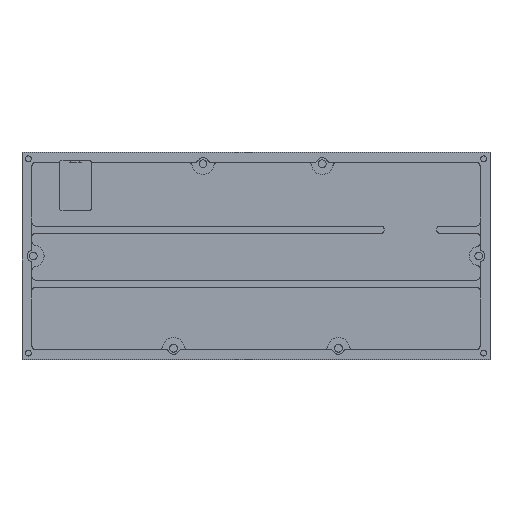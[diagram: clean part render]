
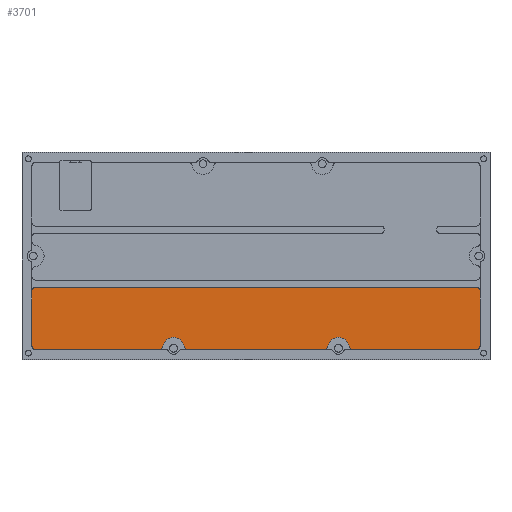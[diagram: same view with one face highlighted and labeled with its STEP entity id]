
A CAD part, top view. The second image highlights one B-rep face of the part: STEP entity #3701.
In plain terms, the highlighted planar face has unit normal (0, 0, 1).
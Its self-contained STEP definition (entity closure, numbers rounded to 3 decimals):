
#424=CARTESIAN_POINT('',(423.5,-109.5,5.5));
#425=VERTEX_POINT('',#424);
#426=CARTESIAN_POINT('',(737.,-109.5,5.5));
#427=VERTEX_POINT('',#426);
#428=CARTESIAN_POINT('',(423.5,-109.5,5.5));
#429=DIRECTION('',(1.,0.,0.));
#430=VECTOR('',#429,313.5);
#431=LINE('',#428,#430);
#432=EDGE_CURVE('',#425,#427,#431,.T.);
#490=CARTESIAN_POINT('',(420.5,-151.,5.5));
#491=VERTEX_POINT('',#490);
#498=CARTESIAN_POINT('',(420.5,-112.5,5.5));
#499=VERTEX_POINT('',#498);
#500=CARTESIAN_POINT('',(420.5,-151.,5.5));
#501=DIRECTION('',(0.,1.,0.));
#502=VECTOR('',#501,38.5);
#503=LINE('',#500,#502);
#504=EDGE_CURVE('',#491,#499,#503,.T.);
#610=CARTESIAN_POINT('',(740.,-112.5,5.5));
#611=VERTEX_POINT('',#610);
#618=CARTESIAN_POINT('',(740.,-151.,5.5));
#619=VERTEX_POINT('',#618);
#620=CARTESIAN_POINT('',(740.,-112.5,5.5));
#621=DIRECTION('',(0.,-1.,0.));
#622=VECTOR('',#621,38.5);
#623=LINE('',#620,#622);
#624=EDGE_CURVE('',#611,#619,#623,.T.);
#666=CARTESIAN_POINT('',(628.438,-154.,5.5));
#667=VERTEX_POINT('',#666);
#674=CARTESIAN_POINT('',(532.062,-154.,5.5));
#675=VERTEX_POINT('',#674);
#676=CARTESIAN_POINT('',(628.438,-154.,5.5));
#677=DIRECTION('',(-1.,-0.,0.));
#678=VECTOR('',#677,96.375);
#679=LINE('',#676,#678);
#680=EDGE_CURVE('',#667,#675,#679,.T.);
#738=CARTESIAN_POINT('',(510.938,-154.,5.5));
#739=VERTEX_POINT('',#738);
#746=CARTESIAN_POINT('',(423.5,-154.,5.5));
#747=VERTEX_POINT('',#746);
#748=CARTESIAN_POINT('',(510.938,-154.,5.5));
#749=DIRECTION('',(-1.,-0.,0.));
#750=VECTOR('',#749,87.438);
#751=LINE('',#748,#750);
#752=EDGE_CURVE('',#739,#747,#751,.T.);
#794=CARTESIAN_POINT('',(737.,-154.,5.5));
#795=VERTEX_POINT('',#794);
#802=CARTESIAN_POINT('',(649.562,-154.,5.5));
#803=VERTEX_POINT('',#802);
#804=CARTESIAN_POINT('',(737.,-154.,5.5));
#805=DIRECTION('',(-1.,-0.,0.));
#806=VECTOR('',#805,87.438);
#807=LINE('',#804,#806);
#808=EDGE_CURVE('',#795,#803,#807,.T.);
#2025=CARTESIAN_POINT('',(646.615,-151.558,5.5));
#2026=VERTEX_POINT('',#2025);
#2027=CARTESIAN_POINT('',(631.385,-151.558,5.5));
#2028=VERTEX_POINT('',#2027);
#2029=CARTESIAN_POINT('',(639.,-153.,5.5));
#2030=DIRECTION('',(0.,0.,1.));
#2031=DIRECTION('',(1.,0.,-0.));
#2032=AXIS2_PLACEMENT_3D('',#2029,#2030,#2031);
#2033=CIRCLE('',#2032,7.75);
#2034=EDGE_CURVE('',#2026,#2028,#2033,.T.);
#2555=CARTESIAN_POINT('',(529.115,-151.558,5.5));
#2556=VERTEX_POINT('',#2555);
#2557=CARTESIAN_POINT('',(513.885,-151.558,5.5));
#2558=VERTEX_POINT('',#2557);
#2559=CARTESIAN_POINT('',(521.5,-153.,5.5));
#2560=DIRECTION('',(0.,0.,1.));
#2561=DIRECTION('',(1.,0.,-0.));
#2562=AXIS2_PLACEMENT_3D('',#2559,#2560,#2561);
#2563=CIRCLE('',#2562,7.75);
#2564=EDGE_CURVE('',#2556,#2558,#2563,.T.);
#3630=CARTESIAN_POINT('',(0.,0.,5.5));
#3631=DIRECTION('',(0.,0.,1.));
#3632=DIRECTION('',(1.,0.,0.));
#3633=AXIS2_PLACEMENT_3D('',#3630,#3631,#3632);
#3634=PLANE('',#3633);
#3635=ORIENTED_EDGE('',*,*,#624,.F.);
#3636=CARTESIAN_POINT('',(737.,-112.5,5.5));
#3637=DIRECTION('',(0.,0.,1.));
#3638=DIRECTION('',(1.,0.,-0.));
#3639=AXIS2_PLACEMENT_3D('',#3636,#3637,#3638);
#3640=CIRCLE('',#3639,3.);
#3641=EDGE_CURVE('',#611,#427,#3640,.T.);
#3642=ORIENTED_EDGE('',*,*,#3641,.T.);
#3643=ORIENTED_EDGE('',*,*,#432,.F.);
#3644=CARTESIAN_POINT('',(423.5,-112.5,5.5));
#3645=DIRECTION('',(0.,0.,1.));
#3646=DIRECTION('',(1.,0.,-0.));
#3647=AXIS2_PLACEMENT_3D('',#3644,#3645,#3646);
#3648=CIRCLE('',#3647,3.);
#3649=EDGE_CURVE('',#425,#499,#3648,.T.);
#3650=ORIENTED_EDGE('',*,*,#3649,.T.);
#3651=ORIENTED_EDGE('',*,*,#504,.F.);
#3652=CARTESIAN_POINT('',(423.5,-151.,5.5));
#3653=DIRECTION('',(0.,0.,1.));
#3654=DIRECTION('',(1.,0.,-0.));
#3655=AXIS2_PLACEMENT_3D('',#3652,#3653,#3654);
#3656=CIRCLE('',#3655,3.);
#3657=EDGE_CURVE('',#491,#747,#3656,.T.);
#3658=ORIENTED_EDGE('',*,*,#3657,.T.);
#3659=ORIENTED_EDGE('',*,*,#752,.F.);
#3660=CARTESIAN_POINT('',(510.938,-151.,5.5));
#3661=DIRECTION('',(0.,0.,1.));
#3662=DIRECTION('',(1.,0.,-0.));
#3663=AXIS2_PLACEMENT_3D('',#3660,#3661,#3662);
#3664=CIRCLE('',#3663,3.);
#3665=EDGE_CURVE('',#739,#2558,#3664,.T.);
#3666=ORIENTED_EDGE('',*,*,#3665,.T.);
#3667=ORIENTED_EDGE('',*,*,#2564,.F.);
#3668=CARTESIAN_POINT('',(532.062,-151.,5.5));
#3669=DIRECTION('',(0.,0.,1.));
#3670=DIRECTION('',(1.,0.,-0.));
#3671=AXIS2_PLACEMENT_3D('',#3668,#3669,#3670);
#3672=CIRCLE('',#3671,3.);
#3673=EDGE_CURVE('',#2556,#675,#3672,.T.);
#3674=ORIENTED_EDGE('',*,*,#3673,.T.);
#3675=ORIENTED_EDGE('',*,*,#680,.F.);
#3676=CARTESIAN_POINT('',(628.438,-151.,5.5));
#3677=DIRECTION('',(0.,0.,1.));
#3678=DIRECTION('',(1.,0.,-0.));
#3679=AXIS2_PLACEMENT_3D('',#3676,#3677,#3678);
#3680=CIRCLE('',#3679,3.);
#3681=EDGE_CURVE('',#667,#2028,#3680,.T.);
#3682=ORIENTED_EDGE('',*,*,#3681,.T.);
#3683=ORIENTED_EDGE('',*,*,#2034,.F.);
#3684=CARTESIAN_POINT('',(649.562,-151.,5.5));
#3685=DIRECTION('',(0.,0.,1.));
#3686=DIRECTION('',(1.,0.,-0.));
#3687=AXIS2_PLACEMENT_3D('',#3684,#3685,#3686);
#3688=CIRCLE('',#3687,3.);
#3689=EDGE_CURVE('',#2026,#803,#3688,.T.);
#3690=ORIENTED_EDGE('',*,*,#3689,.T.);
#3691=ORIENTED_EDGE('',*,*,#808,.F.);
#3692=CARTESIAN_POINT('',(737.,-151.,5.5));
#3693=DIRECTION('',(0.,0.,1.));
#3694=DIRECTION('',(1.,0.,-0.));
#3695=AXIS2_PLACEMENT_3D('',#3692,#3693,#3694);
#3696=CIRCLE('',#3695,3.);
#3697=EDGE_CURVE('',#795,#619,#3696,.T.);
#3698=ORIENTED_EDGE('',*,*,#3697,.T.);
#3699=EDGE_LOOP('',(#3635,#3642,#3643,#3650,#3651,#3658,#3659,#3666,#3667,#3674,#3675,#3682,#3683,#3690,#3691,#3698));
#3700=FACE_BOUND('',#3699,.T.);
#3701=ADVANCED_FACE('',(#3700),#3634,.T.);
